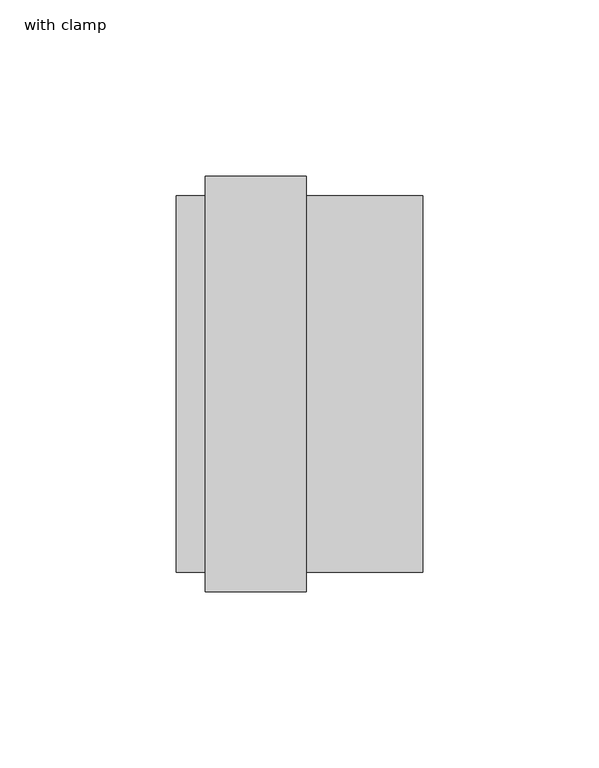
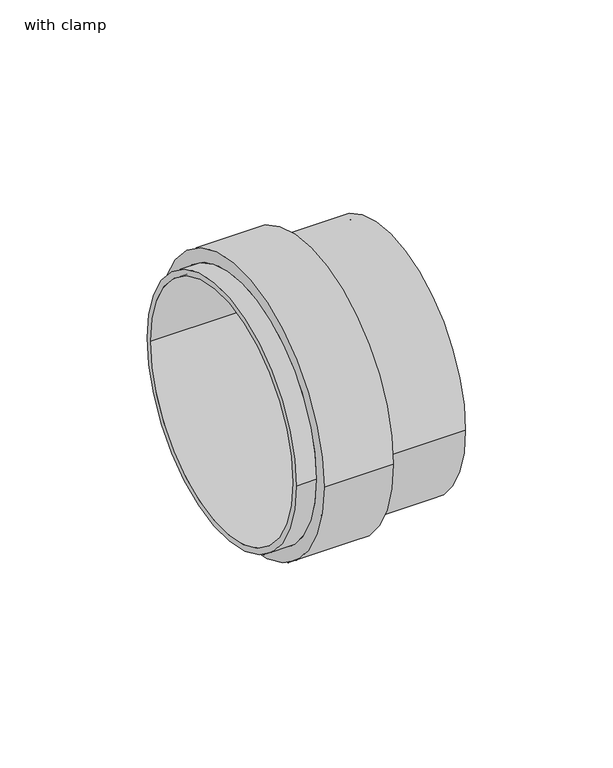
"""IFC4 building model written with IfcOpenShell, lengths in millimetres: pipe fitting geometry, PIF_ST_UN_GM-X compound pipe pipe-end (multiport)_ACO : with clamp."""

from ifc_helpers import new_model, si_unit, frame, origin, place, context, project, spatial, polyline, circle_curve, source, transform, mapped, element, save
from ifc_brep_helpers import plane_surface, cylinder_surface, revolved_surface, advanced_brep


def with_clamp_eb68ef93(model_context):
    return source(origin(), model_context, "Body", "AdvancedBrep", [
        advanced_brep(
        [(0.0, -53.5, 0.0), (0.0, 53.5, 0.0), (0.0, 51.0, 0.0), (0.0, -51.0, 0.0), (-70.0, -53.5, 0.0), (-70.0, 53.5, 0.0), (-70.0, -51.0, 0.0), (-70.0, 51.0, 0.0), (-33.0, -53.5, 0.0), (-33.0, 53.5, 0.0), (-61.7, 53.5, 0.0), (-61.7, -53.5, 0.0), (-33.0, -59.0, 0.0), (-33.0, 59.0, 0.0), (-61.7, -59.0, 0.0), (-61.7, 59.0, 0.0)],
        [
            (0, 1, circle_curve(frame((0.0, 0.0, 0.0), z_axis=(1.0, 0.0, 0.0), x_axis=(0.0, 1.0, 0.0)), 53.5)),
            (1, 0, circle_curve(frame((0.0, 0.0, 0.0), z_axis=(1.0, 0.0, 0.0), x_axis=(0.0, 1.0, 0.0)), 53.5)),
            (2, 3, circle_curve(frame((0.0, 0.0, 0.0), z_axis=(-1.0, 0.0, 0.0), x_axis=(0.0, 1.0, 0.0)), 51.0)),
            (3, 2, circle_curve(frame((0.0, 0.0, 0.0), z_axis=(-1.0, 0.0, 0.0), x_axis=(0.0, 1.0, 0.0)), 51.0)),
            (4, 5, circle_curve(frame((-70.0, 0.0, 0.0), z_axis=(-1.0, 0.0, 0.0), x_axis=(0.0, 1.0, 0.0)), 53.5)),
            (5, 4, circle_curve(frame((-70.0, 0.0, 0.0), z_axis=(-1.0, 0.0, 0.0), x_axis=(0.0, 1.0, 0.0)), 53.5)),
            (6, 7, circle_curve(frame((-70.0, 0.0, 0.0), z_axis=(1.0, 0.0, 0.0), x_axis=(0.0, 1.0, 0.0)), 51.0)),
            (7, 6, circle_curve(frame((-70.0, 0.0, 0.0), z_axis=(1.0, 0.0, 0.0), x_axis=(0.0, 1.0, 0.0)), 51.0)),
            (0, 8),
            (8, 9, circle_curve(frame((-33.0, 0.0, 0.0), z_axis=(1.0, 0.0, 0.0), x_axis=(0.0, 1.0, 0.0)), 53.5)),
            (9, 1),
            (5, 10),
            (10, 11, circle_curve(frame((-61.7, 0.0, 0.0), z_axis=(-1.0, 0.0, 0.0), x_axis=(0.0, 1.0, 0.0)), 53.5)),
            (11, 4),
            (9, 8, circle_curve(frame((-33.0, 0.0, 0.0), z_axis=(1.0, 0.0, 0.0), x_axis=(0.0, 1.0, 0.0)), 53.5)),
            (11, 10, circle_curve(frame((-61.7, 0.0, 0.0), z_axis=(-1.0, 0.0, 0.0), x_axis=(0.0, 1.0, 0.0)), 53.5)),
            (2, 7),
            (6, 3),
            (12, 13, circle_curve(frame((-33.0, 0.0, 0.0), z_axis=(1.0, 0.0, 0.0), x_axis=(0.0, 1.0, 0.0)), 59.0)),
            (13, 12, circle_curve(frame((-33.0, 0.0, 0.0), z_axis=(1.0, 0.0, 0.0), x_axis=(0.0, 1.0, 0.0)), 59.0)),
            (14, 15, circle_curve(frame((-61.7, 0.0, 0.0), z_axis=(-1.0, 0.0, 0.0), x_axis=(0.0, 1.0, 0.0)), 59.0)),
            (15, 14, circle_curve(frame((-61.7, 0.0, 0.0), z_axis=(-1.0, 0.0, 0.0), x_axis=(0.0, 1.0, 0.0)), 59.0)),
            (12, 14),
            (15, 13),
        ],
        [
            plane_surface(frame((0.0, 53.5, 0.0), z_axis=(1.0, 0.0, 0.0), x_axis=(0.0, 0.0, 1.0))),
            plane_surface(frame((-70.0, 53.5, 0.0), z_axis=(-1.0, 0.0, 0.0), x_axis=(0.0, 0.0, -1.0))),
            cylinder_surface(frame((-70.0, 0.0, 0.0), z_axis=(1.0, 0.0, 0.0), x_axis=(0.0, 1.0, 0.0)), 53.5),
            revolved_surface(polyline([(0.0, 51.0, 0.0), (-70.0, 51.0, 0.0)]), (-70.0, 0.0, 0.0), (1.0, 0.0, 0.0)),
            plane_surface(frame((-33.0, 59.0, 0.0), z_axis=(1.0, 0.0, 0.0), x_axis=(0.0, 0.0, 1.0))),
            plane_surface(frame((-61.7, 59.0, 0.0), z_axis=(-1.0, 0.0, 0.0), x_axis=(0.0, 0.0, -1.0))),
            cylinder_surface(frame((-61.7, 0.0, 0.0), z_axis=(1.0, 0.0, 0.0), x_axis=(0.0, 1.0, 0.0)), 59.0),
        ],
        [
            (0, [[1, 2], [3, 4]]),
            (1, [[5, 6], [7, 8]]),
            (2, [[-1, 9, 10, 11]]),
            (2, [[-6, 12, 13, 14]]),
            (2, [[-2, -11, 15, -9]]),
            (2, [[-5, -14, 16, -12]]),
            (3, [[17, -7, 18, -3]]),
            (3, [[-17, -4, -18, -8]]),
            (4, [[19, 20], [-10, -15]]),
            (5, [[21, 22], [-13, -16]]),
            (6, [[-19, 23, -22, 24]]),
            (6, [[-20, -24, -21, -23]]),
        ],
    ),
    ])


if __name__ == "__main__":
    model = new_model("IFC4")
    model_context = context("Model", 3, world=origin())
    ifc_project = project(units=[si_unit("LENGTHUNIT", "METRE", prefix="MILLI")], contexts=[model_context])
    site = spatial("IfcSite", under=ifc_project)
    building = spatial("IfcBuilding", under=site)
    placement = place(None, origin())
    with_clamp_shape = with_clamp_eb68ef93(model_context)
    element("IfcPipeFitting", 1, ObjectType="PIF_ST_UN_GM-X compound pipe pipe-end (multiport)_ACO : with clamp", at=placement, inside=building, context=model_context, shape_type="MappedRepresentation", body=[
        mapped(with_clamp_shape, transform((0.0, 0.0, 0.0), x_axis=(1.0, 0.0, 0.0), y_axis=(0.0, 1.0, 0.0), z_axis=(0.0, 0.0, 1.0))),
    ])
    save(model, "model.ifc")
